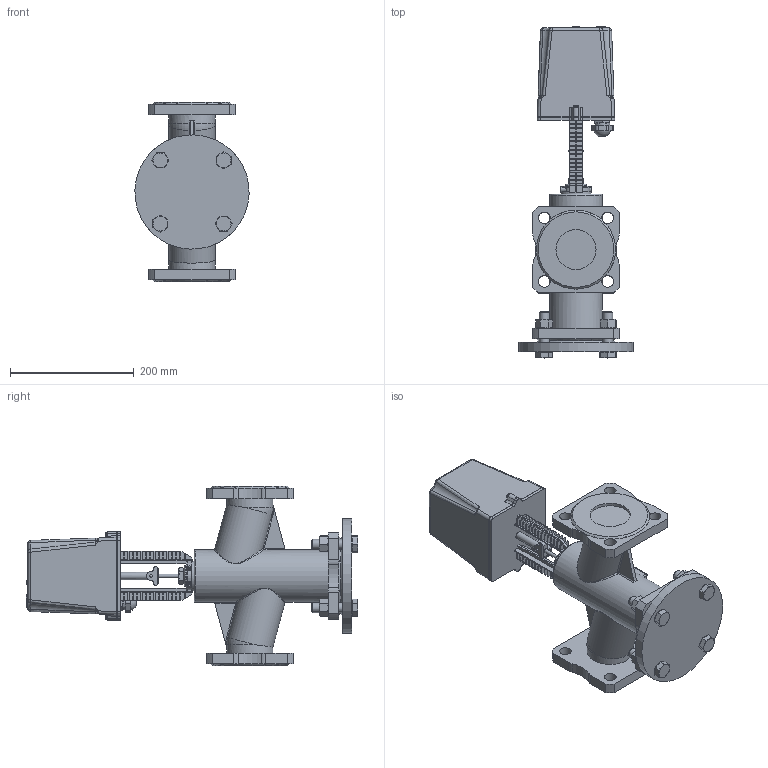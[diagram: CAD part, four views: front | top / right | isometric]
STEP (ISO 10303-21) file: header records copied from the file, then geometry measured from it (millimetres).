
FILE_DESCRIPTION(('STEP AP242'), '1');
FILE_NAME('VSR1-13V-PED-F Êëàïàí çàïîðíî-ðåãóëèðóþùèé DN.ru Äó65 Ðó16', '', ('UNSPECIFIED'), ('UNSPECIFIED'), 'C3D Converter', 'C3D Toolkit', '');
FILE_SCHEMA(('AP242_MANAGED_MODEL_BASED_3D_ENGINEERING_MIM_LF { 1 0 10303 442 1 1 4 }'));
Length unit declared in the file: millimetre
Products named in the file (1): VSR1-13V-PED-F
Bounding box: 184.82 x 537 x 290 mm (x, y, z)
Volume: 5760819.2 mm3; surface area: 459021.7 mm2
Topology: 1 solids, 1 shells, 1426 faces, 3863 edges, 2449 vertices
Faces by surface type: plane 755, cylinder 310, extrusion 151, bspline 82, cone 54, torus 44, sphere 30
Full cylindrical faces by diameter (mm): 4 x5, 6 x1, 7 x2, 7.5 x3, 12 x2, 16 x8, 18 x4, 19 x12, 24 x4, 25 x1, 35 x1, 50 x1, 65 x2, 75 x2, 85 x1, 185 x1
Entity records: 65914 total; most frequent: CARTESIAN_POINT 24023, ORIENTED_EDGE 7444, DIRECTION 6379, EDGE_CURVE 3722, VERTEX_POINT 2441, VECTOR 2377, LINE 2226, AXIS2_PLACEMENT_3D 2001
